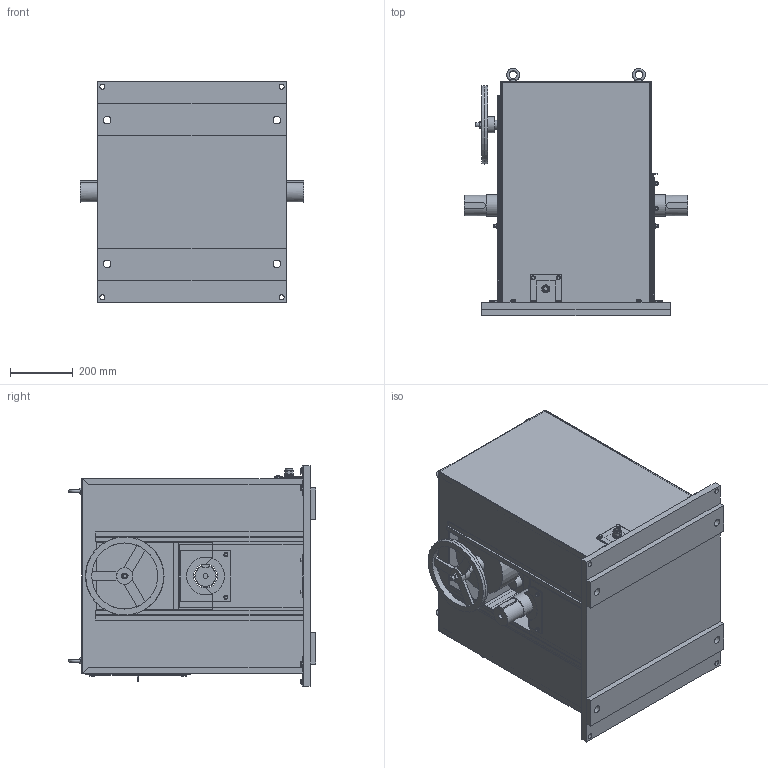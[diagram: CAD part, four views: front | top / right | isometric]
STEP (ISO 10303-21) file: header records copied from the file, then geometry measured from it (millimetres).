
FILE_DESCRIPTION (( 'STEP AP203' ), '1' );
FILE_NAME ('ECE-2115S-05_水門用直流電磁ブレーキ.STEP', '2026-04-03T01:58:12', ( '' ), ( '' ), 'SwSTEP 2.0', 'SolidWorks 2025', '' );
FILE_SCHEMA (( 'CONFIG_CONTROL_DESIGN' ));
Length unit declared in the file: millimetre
Products named in the file (1): ECE-2115S-05_水門用直流電磁ブレーキ
Bounding box: 710 x 785.99 x 700 mm (x, y, z)
Volume: 29413445.3 mm3; surface area: 5624230.9 mm2
Topology: 4 solids, 4 shells, 972 faces, 2453 edges, 1565 vertices
Faces by surface type: plane 670, cone 160, cylinder 126, sphere 12, torus 4
Full cylindrical faces by diameter (mm): 6 x2, 7 x2, 8 x4, 8.5 x4, 10 x12, 12 x1, 13 x17, 16 x5, 18 x8, 20 x1, 22 x1, 23 x1, 24 x8, 25 x1, 28 x2, 50 x1, 52 x2, 65 x2, 70 x3, 75 x1, 210 x2
Entity records: 29316 total; most frequent: CARTESIAN_POINT 6747, ORIENTED_EDGE 4634, DIRECTION 4375, EDGE_CURVE 2317, LINE 1569, VECTOR 1569, VERTEX_POINT 1523, AXIS2_PLACEMENT_3D 1403
